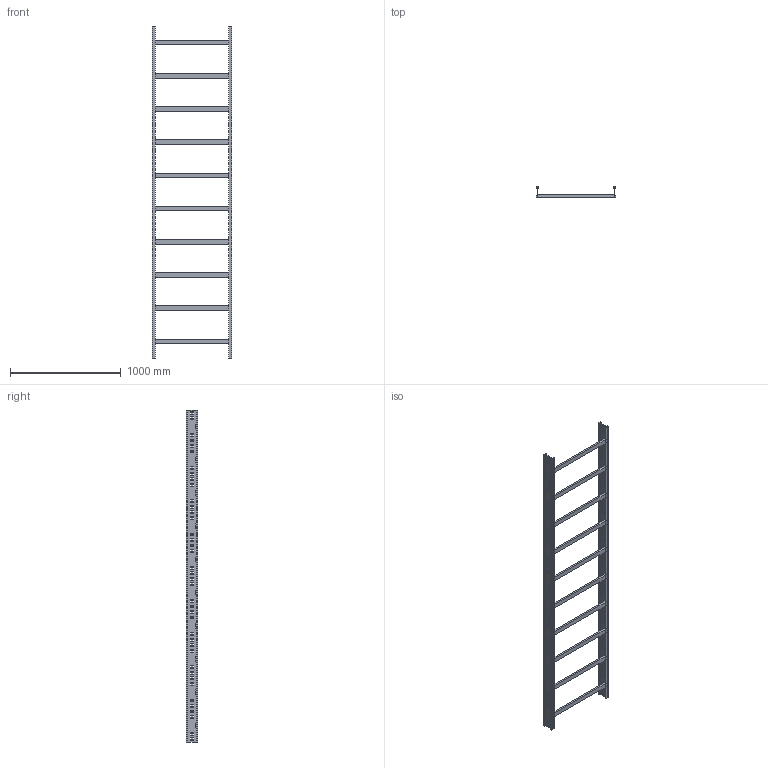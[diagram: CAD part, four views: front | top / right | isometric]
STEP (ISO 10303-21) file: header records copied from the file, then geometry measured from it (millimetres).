
FILE_DESCRIPTION (( 'STEP AP214' ), '1' );
FILE_NAME ('01S3D700.step', '2025-02-21T16:19:56', ( '' ), ( '' ), 'SwSTEP 2.0', 'SolidWorks 2023', '' );
FILE_SCHEMA (( 'AUTOMOTIVE_DESIGN' ));
Length unit declared in the file: millimetre
Products named in the file (3): TRAVERSINO_700; LONGH.H100; 01S3D700
Assembly tree (12 placements, depth 2):
  01S3D700
    LONGH.H100  x2
    TRAVERSINO_700  x10
Bounding box: 718 x 100 x 3000 mm (x, y, z)
Volume: 8773200 mm3; surface area: 2588011 mm2
Topology: 12 solids, 12 shells, 728 faces, 2112 edges, 1408 vertices
Faces by surface type: plane 728
Entity records: 11620 total; most frequent: CARTESIAN_POINT 2035, ORIENTED_EDGE 2016, DIRECTION 1718, EDGE_CURVE 1008, LINE 1008, VECTOR 1008, VERTEX_POINT 672, EDGE_LOOP 500
